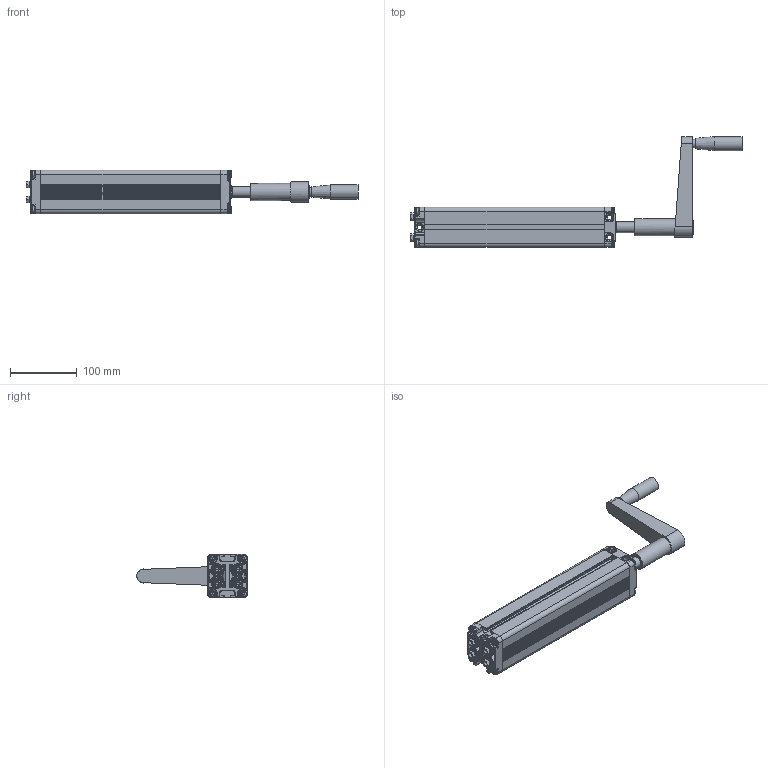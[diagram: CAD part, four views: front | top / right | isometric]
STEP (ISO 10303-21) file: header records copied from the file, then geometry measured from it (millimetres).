
FILE_DESCRIPTION(/* description */ ('Unknown'),/* implementation_level */ '2;1');
FILE_NAME(/* name */ '313.20031 Pumpe PF 4815 W mit Handkurbel',/* time_stamp */ '2018-01-09T17:23:49+01:00',/* author */ ('Unknown'),/* organization */ ('Unknown'),/* preprocessor_version */ 'ST-DEVELOPER v16.7',/* originating_system */ 'DEX',/* authorisation */ $);
FILE_SCHEMA (('AUTOMOTIVE_DESIGN {1 0 10303 214 3 1 1}'));
Products named in the file (29): 103.20031; 115.10051_oa_0; 125.00126; 115.00008_oa_1; 142.00021; 125.00021; 113.00005; 128.00001; 125.00052; 126.00013; 125.00053; 142.00077; 127.00014; 142.00244; Handgriff; 115.10051_oa_2; 115.00008_oa_3; 142.00013; 115.10051_oa_4; 115.00008_oa_5; 115.10051_oa_6; 115.00008_oa_7; 142.00057; 125.00141; 115.00141; 126.00076; 122.00040; 119.00351; 126.00075
Assembly tree (44 placements, depth 3):
  103.20031
    115.10051_oa_0
      125.00126
      115.00008_oa_1
      142.00021
      125.00021
    113.00005
      128.00001
      125.00052
      126.00013
      125.00053
      142.00077
      127.00014
      142.00244
      Handgriff
    115.10051_oa_2
      125.00126
      115.00008_oa_3
      142.00021
      125.00021
    142.00013  x8
    115.10051_oa_4
      125.00126
      115.00008_oa_5
      142.00021
      125.00021
    115.10051_oa_6
      125.00126
      115.00008_oa_7
      142.00021
      125.00021
    142.00057
    125.00141
    115.00141
      126.00076
      122.00040
    119.00351
    126.00075
Bounding box: 495.72 x 165.5 x 65 mm (x, y, z)
Volume: 530907.3 mm3; surface area: 282368.9 mm2
Topology: 34 solids, 34 shells, 2448 faces, 5973 edges, 3583 vertices
Faces by surface type: plane 977, cylinder 561, bspline 455, cone 334, torus 109, sphere 12
Full cylindrical faces by diameter (mm): 3.5 x4, 4 x2, 4.1 x4, 4.2 x5, 4.917 x2, 5 x8, 6 x1, 6.917 x8, 8 x10, 9.8 x8, 10 x4, 10.4 x1, 12.8 x1, 13 x5, 14 x2, 14.4 x4, 16 x2, 17 x1, 17.9 x8, 18 x1, 19 x1, 20.6 x1, 21 x1, 22 x1, 25.5 x1
Entity records: 79197 total; most frequent: CARTESIAN_POINT 39246, ORIENTED_EDGE 8374, DIRECTION 6903, EDGE_CURVE 4187, VERTEX_POINT 2689, AXIS2_PLACEMENT_3D 2434, LINE 2035, VECTOR 2035
